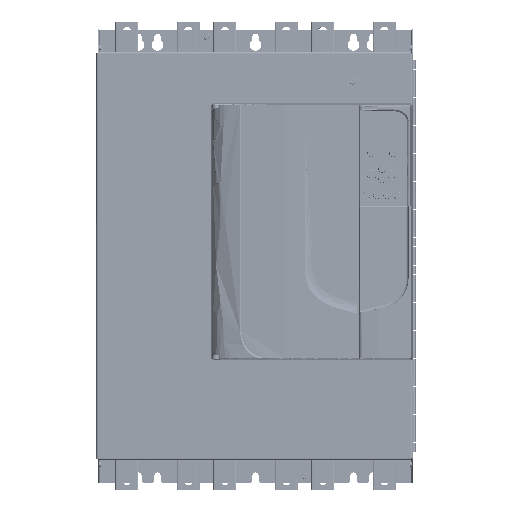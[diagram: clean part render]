
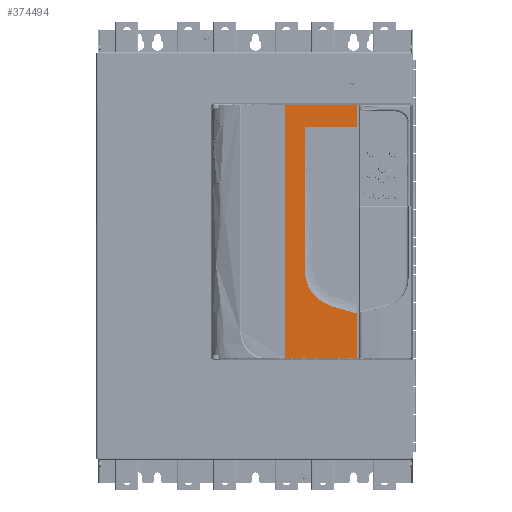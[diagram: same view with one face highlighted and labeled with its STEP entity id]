
A CAD part, top view. The second image highlights one B-rep face of the part: STEP entity #374494.
In plain terms, the highlighted planar face has unit normal (0, 0, 1).
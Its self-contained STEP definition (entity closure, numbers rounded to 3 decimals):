
#79551 = EDGE_CURVE ( 'NONE', #497309, #496759, #156267, .T. ) ;
#79805 = EDGE_CURVE ( 'NONE', #552070, #496850, #156062, .T. ) ;
#80265 = EDGE_CURVE ( 'NONE', #496850, #497358, #155714, .T. ) ;
#80427 = EDGE_CURVE ( 'NONE', #496749, #552070, #107875, .T. ) ;
#107875 = B_SPLINE_CURVE_WITH_KNOTS ( 'NONE', 3,
 ( #416043, #415918, #415912, #415902, #415897, #415892, #415890, #415886, #415881, #415878, #415872, #415866, #415853, #415828, #415823 ),
 .UNSPECIFIED., .F., .F.,
 ( 4, 1, 1, 1, 1, 1, 1, 1, 1, 1, 1, 1, 4 ),
 ( 0., 0.013, 0.026, 0.04, 0.053, 0.059, 0.066, 0.073, 0.079, 0.086, 0.092, 0.099, 0.106 ),
 .UNSPECIFIED. ) ;
#141200 = CARTESIAN_POINT ( 'NONE',  ( 138.943, -78.922, 293.818 ) ) ;
#141422 = CARTESIAN_POINT ( 'NONE',  ( 138.943, 175.909, 293.818 ) ) ;
#141512 = CARTESIAN_POINT ( 'NONE',  ( 40.794, -139.676, 293.818 ) ) ;
#141538 = CARTESIAN_POINT ( 'NONE',  ( 138.943, 205.711, 293.818 ) ) ;
#141797 = CARTESIAN_POINT ( 'NONE',  ( 40.794, 205.711, 293.818 ) ) ;
#142033 = CARTESIAN_POINT ( 'NONE',  ( 67.194, 175.909, 293.818 ) ) ;
#142104 = CARTESIAN_POINT ( 'NONE',  ( 138.943, -139.676, 293.818 ) ) ;
#155711 = VECTOR ( 'NONE', #416456, 1000. ) ;
#155714 = LINE ( 'NONE', #416464, #155711 ) ;
#156053 = VECTOR ( 'NONE', #417720, 1000. ) ;
#156062 = LINE ( 'NONE', #417753, #156053 ) ;
#156259 = VECTOR ( 'NONE', #418262, 1000. ) ;
#156267 = LINE ( 'NONE', #418386, #156259 ) ;
#233974 = CARTESIAN_POINT ( 'NONE',  ( 67.194, -16.498, 293.818 ) ) ;
#287691 = EDGE_CURVE ( 'NONE', #496777, #496749, #593063, .T. ) ;
#287739 = EDGE_CURVE ( 'NONE', #497309, #496777, #593126, .T. ) ;
#287766 = EDGE_CURVE ( 'NONE', #497294, #496759, #593189, .T. ) ;
#287866 = EDGE_CURVE ( 'NONE', #497358, #497294, #593292, .T. ) ;
#316287 = AXIS2_PLACEMENT_3D ( 'NONE', #474801, #474797, #474791 ) ;
#329278 = FACE_OUTER_BOUND ( 'NONE', #605188, .T. ) ;
#343979 = ORIENTED_EDGE ( 'NONE', *, *, #79805, .T. ) ;
#343985 = ORIENTED_EDGE ( 'NONE', *, *, #287691, .T. ) ;
#343989 = ORIENTED_EDGE ( 'NONE', *, *, #80427, .T. ) ;
#343992 = ORIENTED_EDGE ( 'NONE', *, *, #79551, .F. ) ;
#343994 = ORIENTED_EDGE ( 'NONE', *, *, #287739, .T. ) ;
#343997 = ORIENTED_EDGE ( 'NONE', *, *, #287866, .T. ) ;
#344000 = ORIENTED_EDGE ( 'NONE', *, *, #287766, .T. ) ;
#344007 = ORIENTED_EDGE ( 'NONE', *, *, #80265, .T. ) ;
#374494 = ADVANCED_FACE ( 'NONE', ( #329278 ), #471787, .F. ) ;
#415823 = CARTESIAN_POINT ( 'NONE',  ( 67.194, -16.498, 293.818 ) ) ;
#415828 = CARTESIAN_POINT ( 'NONE',  ( 67.194, -18.567, 293.818 ) ) ;
#415853 = CARTESIAN_POINT ( 'NONE',  ( 67.343, -22.729, 293.818 ) ) ;
#415866 = CARTESIAN_POINT ( 'NONE',  ( 68.117, -28.994, 293.818 ) ) ;
#415872 = CARTESIAN_POINT ( 'NONE',  ( 69.55, -35.207, 293.818 ) ) ;
#415878 = CARTESIAN_POINT ( 'NONE',  ( 71.753, -41.257, 293.818 ) ) ;
#415881 = CARTESIAN_POINT ( 'NONE',  ( 74.794, -46.997, 293.818 ) ) ;
#415886 = CARTESIAN_POINT ( 'NONE',  ( 78.677, -52.272, 293.818 ) ) ;
#415890 = CARTESIAN_POINT ( 'NONE',  ( 83.309, -56.962, 293.818 ) ) ;
#415892 = CARTESIAN_POINT ( 'NONE',  ( 90.305, -62.386, 293.818 ) ) ;
#415897 = CARTESIAN_POINT ( 'NONE',  ( 100.166, -67.657, 293.818 ) ) ;
#415902 = CARTESIAN_POINT ( 'NONE',  ( 112.862, -72.234, 293.818 ) ) ;
#415912 = CARTESIAN_POINT ( 'NONE',  ( 125.879, -75.77, 293.818 ) ) ;
#415918 = CARTESIAN_POINT ( 'NONE',  ( 134.618, -77.852, 293.818 ) ) ;
#416043 = CARTESIAN_POINT ( 'NONE',  ( 138.943, -78.922, 293.818 ) ) ;
#416456 = DIRECTION ( 'NONE',  ( 1., 0., 0. ) ) ;
#416464 = CARTESIAN_POINT ( 'NONE',  ( 103.167, 175.909, 293.818 ) ) ;
#417720 = DIRECTION ( 'NONE',  ( 0., 1., 0. ) ) ;
#417753 = CARTESIAN_POINT ( 'NONE',  ( 67.194, -139.983, 293.818 ) ) ;
#418262 = DIRECTION ( 'NONE',  ( 0., 1., 0. ) ) ;
#418386 = CARTESIAN_POINT ( 'NONE',  ( 40.794, -139.983, 293.818 ) ) ;
#434386 = DIRECTION ( 'NONE',  ( 1., 0., 0. ) ) ;
#434613 = CARTESIAN_POINT ( 'NONE',  ( 139.141, -139.676, 293.818 ) ) ;
#438290 = DIRECTION ( 'NONE',  ( 0., 1., 0. ) ) ;
#438400 = CARTESIAN_POINT ( 'NONE',  ( 138.943, -139.983, 293.818 ) ) ;
#438650 = CARTESIAN_POINT ( 'NONE',  ( 40.794, 205.711, 293.818 ) ) ;
#438827 = DIRECTION ( 'NONE',  ( -1., 0., 0. ) ) ;
#439515 = DIRECTION ( 'NONE',  ( 0., 1., 0. ) ) ;
#439521 = CARTESIAN_POINT ( 'NONE',  ( 138.943, -139.983, 293.818 ) ) ;
#471787 = PLANE ( 'NONE',  #316287 ) ;
#474791 = DIRECTION ( 'NONE',  ( 1., 0., 0. ) ) ;
#474797 = DIRECTION ( 'NONE',  ( 0., 0., -1. ) ) ;
#474801 = CARTESIAN_POINT ( 'NONE',  ( 40.794, -139.983, 293.818 ) ) ;
#496749 = VERTEX_POINT ( 'NONE', #141200 ) ;
#496759 = VERTEX_POINT ( 'NONE', #141797 ) ;
#496777 = VERTEX_POINT ( 'NONE', #142104 ) ;
#496850 = VERTEX_POINT ( 'NONE', #142033 ) ;
#497294 = VERTEX_POINT ( 'NONE', #141538 ) ;
#497309 = VERTEX_POINT ( 'NONE', #141512 ) ;
#497358 = VERTEX_POINT ( 'NONE', #141422 ) ;
#552070 = VERTEX_POINT ( 'NONE', #233974 ) ;
#593063 = LINE ( 'NONE', #438400, #593068 ) ;
#593068 = VECTOR ( 'NONE', #438290, 1000. ) ;
#593126 = LINE ( 'NONE', #434613, #593141 ) ;
#593141 = VECTOR ( 'NONE', #434386, 1000. ) ;
#593189 = LINE ( 'NONE', #438650, #593194 ) ;
#593194 = VECTOR ( 'NONE', #438827, 1000. ) ;
#593292 = LINE ( 'NONE', #439521, #593295 ) ;
#593295 = VECTOR ( 'NONE', #439515, 1000. ) ;
#605188 = EDGE_LOOP ( 'NONE', ( #344007, #343997, #344000, #343992, #343994, #343985, #343989, #343979 ) ) ;
